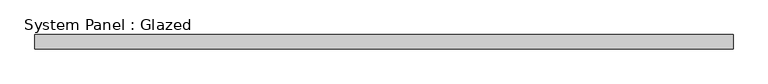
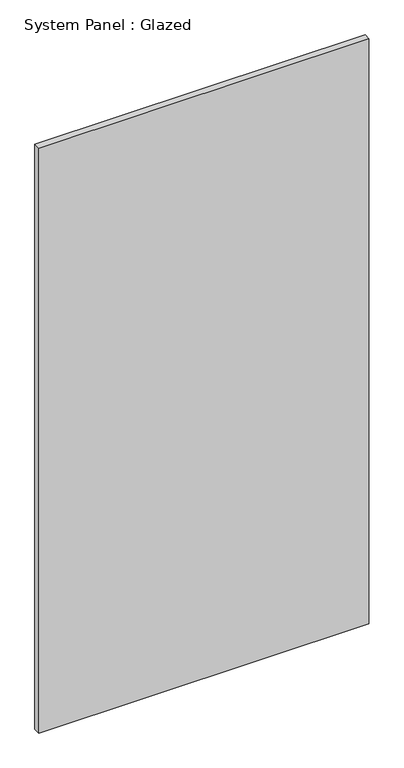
"""IFC4 building model written with IfcOpenShell, lengths in millimetres: plate geometry, System Panel : Glazed."""

from ifc_helpers import new_model, si_unit, origin, origin_with_axes, place, context, project, spatial, polyline, outline, extrude, source, transform, mapped, element, save


def system_panel_glazed_2dd6ead6(model_context):
    return source(origin(), model_context, "Body", "SweptSolid", [
        extrude(outline(polyline([(625.475, 19.05), (-625.475, 19.05), (-625.475, 44.45), (625.475, 44.45), (625.475, 19.05)])), origin_with_axes(), (0.0, 0.0, 1.0), 2343.15),
    ])


if __name__ == "__main__":
    model = new_model("IFC4")
    model_context = context("Model", 3, world=origin())
    ifc_project = project(units=[si_unit("LENGTHUNIT", "METRE", prefix="MILLI")], contexts=[model_context])
    site = spatial("IfcSite", under=ifc_project)
    building = spatial("IfcBuilding", under=site)
    placement = place(None, origin())
    system_panel_glazed_shape = system_panel_glazed_2dd6ead6(model_context)
    element("IfcPlate", 1, ObjectType="System Panel : Glazed", at=placement, inside=building, context=model_context, shape_type="MappedRepresentation", body=[
        mapped(system_panel_glazed_shape, transform((0.0, 0.0, 0.0), x_axis=(1.0, 0.0, 0.0), y_axis=(0.0, 1.0, 0.0), z_axis=(0.0, 0.0, 1.0))),
    ])
    save(model, "model.ifc")
